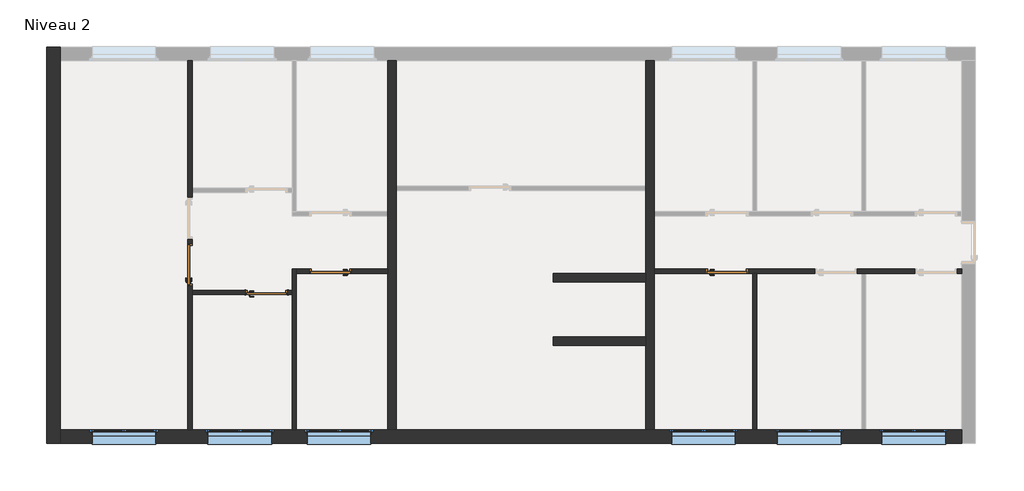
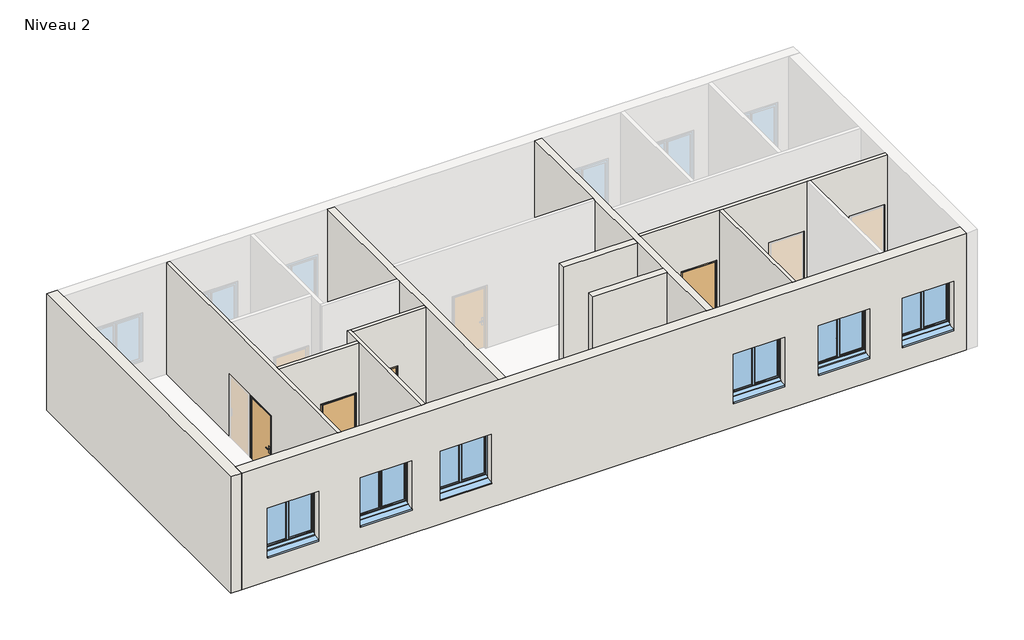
# One storey, part 1 of 2: 12 walls, 6 windows, 4 doors.
"""IFC4 building model written with IfcOpenShell, lengths in millimetres."""

from ifc_helpers import new_model, si_unit, frame, origin, place, context, project, spatial, polyline, outline, extrude, faceted_brep, transform, mapped, element, save
from components import int_simple_pp_0_93m_x_2_04m_4f2bf630, int_simple_pp_0_93m_x_2_04m_68d1b237, window_4dd6e4df

model = new_model("IFC4")

# Units and contexts
model_context = context("Model", 3, world=origin())
ifc_project = project(units=[si_unit("LENGTHUNIT", "METRE", prefix="MILLI")], contexts=[model_context])

# Site, building, storey
site = spatial("IfcSite", under=ifc_project)
building = spatial("IfcBuilding", under=site)
storey = spatial("IfcBuildingStorey", under=building, Name="Niveau 2", Elevation=7200.0)

# Doors
placement = place(None, origin())
int_simple_pp_0_93m_x_2_04m_shape = int_simple_pp_0_93m_x_2_04m_4f2bf630(model_context)
element("IfcDoor", 1, ObjectType="Int. Simple : PP (0.93m x 2.04m)", at=placement, inside=storey, context=model_context, shape_type="MappedRepresentation", body=[
    mapped(int_simple_pp_0_93m_x_2_04m_shape, transform((1686.759299, -1075.3060551, 7200.0), x_axis=(1.0, 0.0, 0.0), y_axis=(0.0, 1.0, 0.0), z_axis=(0.0, 0.0, 1.0))),
])
element("IfcDoor", 2, ObjectType="Int. Simple : PP (0.93m x 2.04m)", at=placement, inside=storey, context=model_context, shape_type="MappedRepresentation", body=[
    mapped(int_simple_pp_0_93m_x_2_04m_shape, transform((-9133.240701, -1575.3060551, 7200.0), x_axis=(1.0, 0.0, 0.0), y_axis=(0.0, 1.0, 0.0), z_axis=(0.0, 0.0, 1.0))),
])
int_simple_pp_0_93m_x_2_04m_2_shape = int_simple_pp_0_93m_x_2_04m_68d1b237(model_context)
element("IfcDoor", 3, ObjectType="Int. Simple : PP (0.93m x 2.04m)", at=placement, inside=storey, context=model_context, shape_type="MappedRepresentation", body=[
    mapped(int_simple_pp_0_93m_x_2_04m_2_shape, transform((-7703.240701, -1075.3060551, 7200.0), x_axis=(-1.0, 0.0, 0.0), y_axis=(0.0, -1.0, 0.0), z_axis=(0.0, 0.0, 1.0))),
])
element("IfcDoor", 4, ObjectType="Int. Simple : PP (0.93m x 2.04m)", at=placement, inside=storey, context=model_context, shape_type="MappedRepresentation", body=[
    mapped(int_simple_pp_0_93m_x_2_04m_2_shape, transform((-10968.240701, -890.3060551, 7200.0), x_axis=(0.0, 1.0, 0.0), y_axis=(-1.0, 0.0, 0.0), z_axis=(0.0, 0.0, 1.0))),
])

# Walls
element("IfcWall", 5, ObjectType="Int. plâtre 100 mm", at=placement, inside=storey, context=model_context, shape_type="Brep", body=[
    faceted_brep([(7161.759299, -1125.3060551, 10800.0), (4911.759299, -1125.3060551, 10800.0), (4811.759299, -1125.3060551, 10800.0), (2351.759299, -1125.3060551, 10800.0), (2251.759299, -1125.3060551, 10800.0), (-58.240701, -1125.3060551, 10800.0), (-58.240701, -1125.3060551, 7200.0), (1151.759299, -1125.3060551, 7200.0), (1151.759299, -1125.3060551, 9275.0), (2151.759299, -1125.3060551, 9275.0), (2151.759299, -1125.3060551, 7200.0), (2251.759299, -1125.3060551, 7200.0), (2351.759299, -1125.3060551, 7200.0), (3711.759299, -1125.3060551, 7200.0), (3711.759299, -1125.3060551, 9275.0), (4711.759299, -1125.3060551, 9275.0), (4711.759299, -1125.3060551, 7200.0), (4811.759299, -1125.3060551, 7200.0), (4911.759299, -1125.3060551, 7200.0), (6061.759299, -1125.3060551, 7200.0), (6061.759299, -1125.3060551, 9275.0), (7061.759299, -1125.3060551, 9275.0), (7061.759299, -1125.3060551, 7200.0), (7161.759299, -1125.3060551, 7200.0), (-58.240701, -1025.3060551, 10800.0), (7161.759299, -1025.3060551, 10800.0), (7161.759299, -1025.3060551, 7200.0), (7061.759299, -1025.3060551, 7200.0), (7061.759299, -1025.3060551, 9275.0), (6061.759299, -1025.3060551, 9275.0), (6061.759299, -1025.3060551, 7200.0), (4711.759299, -1025.3060551, 7200.0), (4711.759299, -1025.3060551, 9275.0), (3711.759299, -1025.3060551, 9275.0), (3711.759299, -1025.3060551, 7200.0), (2151.759299, -1025.3060551, 7200.0), (2151.759299, -1025.3060551, 9275.0), (1151.759299, -1025.3060551, 9275.0), (1151.759299, -1025.3060551, 7200.0), (-58.240701, -1025.3060551, 7200.0)], [[[0, 1, 2, 3, 4, 5, 6, 7, 8, 9, 10, 11, 12, 13, 14, 15, 16, 17, 18, 19, 20, 21, 22, 23]], [[24, 25, 26, 27, 28, 29, 30, 31, 32, 33, 34, 35, 36, 37, 38, 39]], [[6, 39, 38, 7]], [[26, 23, 22, 27]], [[10, 35, 34, 13, 12, 11]], [[16, 31, 30, 19, 18, 17]], [[5, 4, 3, 2, 1, 0, 25, 24]], [[0, 23, 26, 25]], [[6, 5, 24, 39]], [[9, 36, 35, 10]], [[36, 9, 8, 37]], [[37, 8, 7, 38]], [[15, 32, 31, 16]], [[32, 15, 14, 33]], [[33, 14, 13, 34]], [[21, 28, 27, 22]], [[28, 21, 20, 29]], [[29, 20, 19, 30]]]),
])
element("IfcWall", 6, ObjectType="Int. plâtre 100 mm", at=placement, inside=storey, context=model_context, shape_type="SweptSolid", body=[
    extrude(outline(polyline([(2351.759299, -1125.3060551), (2351.759299, -4805.3060551), (2251.759299, -4805.3060551), (2251.759299, -1125.3060551), (2351.759299, -1125.3060551)])), frame((0.0, 0.0, 7200.0), z_axis=(0.0, 0.0, 1.0), x_axis=(1.0, 0.0, 0.0)), (0.0, 0.0, 1.0), 3600.0),
])
element("IfcWall", 7, ObjectType="Int. plâtre 100 mm", at=placement, inside=storey, context=model_context, shape_type="Brep", body=[
    faceted_brep([(-10918.240701, 3874.6939449, 10800.0), (-10918.240701, 874.6939449, 10800.0), (-10918.240701, 774.6939449, 10800.0), (-10918.240701, -1525.3060551, 10800.0), (-10918.240701, -1625.3060551, 10800.0), (-10918.240701, -4805.3060551, 10800.0), (-10918.240701, -4805.3060551, 7200.0), (-10918.240701, -1625.3060551, 7200.0), (-10918.240701, -1525.3060551, 7200.0), (-10918.240701, -1425.3060551, 7200.0), (-10918.240701, -1425.3060551, 9275.0), (-10918.240701, -425.3060551, 9275.0), (-10918.240701, -425.3060551, 7200.0), (-10918.240701, -325.3060551, 7200.0), (-10918.240701, -325.3060551, 9275.0), (-10918.240701, 674.6939449, 9275.0), (-10918.240701, 674.6939449, 7200.0), (-10918.240701, 774.6939449, 7200.0), (-10918.240701, 874.6939449, 7200.0), (-10918.240701, 3874.6939449, 7200.0), (-11018.240701, -4805.3060551, 10800.0), (-11018.240701, 3874.6939449, 10800.0), (-11018.240701, 3874.6939449, 7200.0), (-11018.240701, 674.6939449, 7200.0), (-11018.240701, 674.6939449, 9275.0), (-11018.240701, -325.3060551, 9275.0), (-11018.240701, -325.3060551, 7200.0), (-11018.240701, -425.3060551, 7200.0), (-11018.240701, -425.3060551, 9275.0), (-11018.240701, -1425.3060551, 9275.0), (-11018.240701, -1425.3060551, 7200.0), (-11018.240701, -4805.3060551, 7200.0)], [[[0, 1, 2, 3, 4, 5, 6, 7, 8, 9, 10, 11, 12, 13, 14, 15, 16, 17, 18, 19]], [[20, 21, 22, 23, 24, 25, 26, 27, 28, 29, 30, 31]], [[6, 31, 30, 9, 8, 7]], [[22, 19, 18, 17, 16, 23]], [[12, 27, 26, 13]], [[5, 4, 3, 2, 1, 0, 21, 20]], [[0, 19, 22, 21]], [[6, 5, 20, 31]], [[11, 28, 27, 12]], [[28, 11, 10, 29]], [[29, 10, 9, 30]], [[25, 14, 13, 26]], [[14, 25, 24, 15]], [[15, 24, 23, 16]]]),
])
element("IfcWall", 8, ObjectType="Int. plâtre 100 mm", at=placement, inside=storey, context=model_context, shape_type="Brep", body=[
    faceted_brep([(-8468.240701, -4805.3060551, 7200.0), (-8468.240701, -1125.3060551, 7200.0), (-8468.240701, -1025.3060551, 7200.0), (-8468.240701, -1025.3060551, 10800.0), (-8468.240701, -1125.3060551, 10800.0), (-8468.240701, -4805.3060551, 10800.0), (-8568.240701, -4805.3060551, 7200.0), (-8568.240701, -4805.3060551, 10800.0), (-8568.240701, -1625.3060551, 10800.0), (-8568.240701, -1525.3060551, 10800.0), (-8568.240701, -1025.3060551, 10800.0), (-8568.240701, -1025.3060551, 7200.0), (-8568.240701, -1525.3060551, 7200.0), (-8568.240701, -1625.3060551, 7200.0)], [[[0, 1, 2, 3, 4, 5]], [[6, 7, 8, 9, 10, 11, 12, 13]], [[2, 1, 0, 6, 13, 12, 11]], [[5, 4, 3, 10, 9, 8, 7]], [[0, 5, 7, 6]], [[3, 2, 11, 10]]]),
])
element("IfcWall", 9, ObjectType="Int. plâtre 100 mm", at=placement, inside=storey, context=model_context, shape_type="SweptSolid", body=[
    extrude(outline(polyline([(10800.0, -6318.240701), (10800.0, -8468.240701), (7200.0, -8468.240701), (7200.0, -8168.240701), (9275.0, -8168.240701), (9275.0, -7168.240701), (7200.0, -7168.240701), (7200.0, -6318.240701), (10800.0, -6318.240701)])), frame((0.0, -1125.3060551, 0.0), z_axis=(0.0, 1.0, 0.0), x_axis=(0.0, 0.0, 1.0)), (0.0, 0.0, 1.0), 100.0),
])
element("IfcWall", 10, ObjectType="Int. plâtre 100 mm", at=placement, inside=storey, context=model_context, shape_type="SweptSolid", body=[
    extrude(outline(polyline([(10800.0, -8568.240701), (10800.0, -10918.240701), (7200.0, -10918.240701), (7200.0, -9668.240701), (9275.0, -9668.240701), (9275.0, -8668.240701), (7200.0, -8668.240701), (7200.0, -8568.240701), (10800.0, -8568.240701)])), frame((0.0, -1625.3060551, 0.0), z_axis=(0.0, 1.0, 0.0), x_axis=(0.0, 0.0, 1.0)), (0.0, 0.0, 1.0), 100.0),
])
element("IfcWall", 11, ObjectType="Ext. Voile BA 20", at=placement, inside=storey, context=model_context, shape_type="Brep", body=[
    faceted_brep([(-6318.240701, 3874.6939449, 7200.0), (-6318.240701, 324.6939449, 7200.0), (-6318.240701, 224.6939449, 7200.0), (-6318.240701, -1025.3060551, 7200.0), (-6318.240701, -1125.3060551, 7200.0), (-6318.240701, -4805.3060551, 7200.0), (-6318.240701, -4805.3060551, 10800.0), (-6318.240701, -1125.3060551, 10800.0), (-6318.240701, -1025.3060551, 10800.0), (-6318.240701, 224.6939449, 10800.0), (-6318.240701, 324.6939449, 10800.0), (-6318.240701, 3874.6939449, 10800.0), (-6118.240701, 3874.6939449, 7200.0), (-6118.240701, 3874.6939449, 10800.0), (-6118.240701, 924.6939449, 10800.0), (-6118.240701, 824.6939449, 10800.0), (-6118.240701, -4805.3060551, 10800.0), (-6118.240701, -4805.3060551, 7200.0), (-6118.240701, 824.6939449, 7200.0), (-6118.240701, 924.6939449, 7200.0)], [[[0, 1, 2, 3, 4, 5, 6, 7, 8, 9, 10, 11]], [[12, 13, 14, 15, 16, 17, 18, 19]], [[5, 4, 3, 2, 1, 0, 12, 19, 18, 17]], [[11, 10, 9, 8, 7, 6, 16, 15, 14, 13]], [[0, 11, 13, 12]], [[6, 5, 17, 16]]]),
])
element("IfcWall", 12, ObjectType="Ext. Voile BA 20", at=placement, inside=storey, context=model_context, shape_type="Brep", body=[
    faceted_brep([(-258.240701, 3874.6939449, 7200.0), (-258.240701, 924.6939449, 7200.0), (-258.240701, 824.6939449, 7200.0), (-258.240701, -1129.6604406, 7200.0), (-258.240701, -1329.6604406, 7200.0), (-258.240701, -2625.3060551, 7200.0), (-258.240701, -2825.3060551, 7200.0), (-258.240701, -4805.3060551, 7200.0), (-258.240701, -4805.3060551, 10800.0), (-258.240701, -2825.3060551, 10800.0), (-258.240701, -2625.3060551, 10800.0), (-258.240701, -1329.6604406, 10800.0), (-258.240701, -1129.6604406, 10800.0), (-258.240701, 824.6939449, 10800.0), (-258.240701, 924.6939449, 10800.0), (-258.240701, 3874.6939449, 10800.0), (-58.240701, 3874.6939449, 7200.0), (-58.240701, 3874.6939449, 10800.0), (-58.240701, 324.6939449, 10800.0), (-58.240701, 224.6939449, 10800.0), (-58.240701, -1025.3060551, 10800.0), (-58.240701, -1125.3060551, 10800.0), (-58.240701, -4805.3060551, 10800.0), (-58.240701, -4805.3060551, 7200.0), (-58.240701, -1125.3060551, 7200.0), (-58.240701, -1025.3060551, 7200.0), (-58.240701, 224.6939449, 7200.0), (-58.240701, 324.6939449, 7200.0)], [[[0, 1, 2, 3, 4, 5, 6, 7, 8, 9, 10, 11, 12, 13, 14, 15]], [[16, 17, 18, 19, 20, 21, 22, 23, 24, 25, 26, 27]], [[7, 6, 5, 4, 3, 2, 1, 0, 16, 27, 26, 25, 24, 23]], [[15, 14, 13, 12, 11, 10, 9, 8, 22, 21, 20, 19, 18, 17]], [[0, 15, 17, 16]], [[8, 7, 23, 22]]]),
])
element("IfcWall", 13, ObjectType="Ext. Voile BA 20", at=placement, inside=storey, context=model_context, shape_type="SweptSolid", body=[
    extrude(outline(polyline([(-258.240701, -1329.6604406), (-2430.4682755, -1329.6604406), (-2430.4682755, -1129.6604406), (-258.240701, -1129.6604406), (-258.240701, -1329.6604406)])), frame((0.0, 0.0, 7200.0), z_axis=(0.0, 0.0, 1.0), x_axis=(1.0, 0.0, 0.0)), (0.0, 0.0, 1.0), 3600.0),
])
element("IfcWall", 14, ObjectType="Ext. Voile BA 20", at=placement, inside=storey, context=model_context, shape_type="SweptSolid", body=[
    extrude(outline(polyline([(-258.240701, -2825.3060551), (-2430.4682755, -2825.3060551), (-2430.4682755, -2625.3060551), (-258.240701, -2625.3060551), (-258.240701, -2825.3060551)])), frame((0.0, 0.0, 7200.0), z_axis=(0.0, 0.0, 1.0), x_axis=(1.0, 0.0, 0.0)), (0.0, 0.0, 1.0), 3600.0),
])
element("IfcWall", 15, ObjectType="Ext. Voile BA 20 + Isolant 10", at=placement, inside=storey, context=model_context, shape_type="Brep", body=[
    faceted_brep([(-14018.240701, -5125.3060551, 7200.0), (-14018.240701, -4805.3060551, 7200.0), (-14018.240701, 3874.6939449, 7200.0), (-14018.240701, 4194.6939449, 7200.0), (-14018.240701, 4194.6939449, 10800.0), (-14018.240701, 3874.6939449, 10800.0), (-14018.240701, -4805.3060551, 10800.0), (-14018.240701, -5125.3060551, 10800.0), (-14338.240701, -5125.3060551, 7200.0), (-14338.240701, -5125.3060551, 10800.0), (-14338.240701, 4194.6939449, 10800.0), (-14338.240701, 4194.6939449, 7200.0)], [[[0, 1, 2, 3, 4, 5, 6, 7]], [[8, 9, 10, 11]], [[3, 2, 1, 0, 8, 11]], [[7, 6, 5, 4, 10, 9]], [[4, 3, 11, 10]], [[0, 7, 9, 8]]]),
])
element("IfcWall", 16, ObjectType="Ext. Voile BA 20 + Isolant 10", at=placement, inside=storey, context=model_context, shape_type="Brep", body=[
    faceted_brep([(7161.759299, -4805.3060551, 7200.0), (4911.759299, -4805.3060551, 7200.0), (4811.759299, -4805.3060551, 7200.0), (2351.759299, -4805.3060551, 7200.0), (2251.759299, -4805.3060551, 7200.0), (-58.240701, -4805.3060551, 7200.0), (-258.240701, -4805.3060551, 7200.0), (-6118.240701, -4805.3060551, 7200.0), (-6318.240701, -4805.3060551, 7200.0), (-8468.240701, -4805.3060551, 7200.0), (-8568.240701, -4805.3060551, 7200.0), (-10918.240701, -4805.3060551, 7200.0), (-11018.240701, -4805.3060551, 7200.0), (-14018.240701, -4805.3060551, 7200.0), (-14018.240701, -4805.3060551, 10800.0), (-11018.240701, -4805.3060551, 10800.0), (-10918.240701, -4805.3060551, 10800.0), (-8568.240701, -4805.3060551, 10800.0), (-8468.240701, -4805.3060551, 10800.0), (-6318.240701, -4805.3060551, 10800.0), (-6118.240701, -4805.3060551, 10800.0), (-258.240701, -4805.3060551, 10800.0), (-58.240701, -4805.3060551, 10800.0), (2251.759299, -4805.3060551, 10800.0), (2351.759299, -4805.3060551, 10800.0), (4811.759299, -4805.3060551, 10800.0), (4911.759299, -4805.3060551, 10800.0), (7161.759299, -4805.3060551, 10800.0), (296.759299, -4805.3060551, 8000.0), (1896.759299, -4805.3060551, 8000.0), (1896.759299, -4805.3060551, 9500.0), (296.759299, -4805.3060551, 9500.0), (2781.759299, -4805.3060551, 8000.0), (4381.759299, -4805.3060551, 8000.0), (4381.759299, -4805.3060551, 9500.0), (2781.759299, -4805.3060551, 9500.0), (5236.759299, -4805.3060551, 8000.0), (6836.759299, -4805.3060551, 8000.0), (6836.759299, -4805.3060551, 9500.0), (5236.759299, -4805.3060551, 9500.0), (-13318.240701, -4805.3060551, 8000.0), (-11718.240701, -4805.3060551, 8000.0), (-11718.240701, -4805.3060551, 9500.0), (-13318.240701, -4805.3060551, 9500.0), (-8268.240701, -4805.3060551, 8000.0), (-6668.240701, -4805.3060551, 8000.0), (-6668.240701, -4805.3060551, 9500.0), (-8268.240701, -4805.3060551, 9500.0), (-10598.240701, -4805.3060551, 8000.0), (-8998.240701, -4805.3060551, 8000.0), (-8998.240701, -4805.3060551, 9500.0), (-10598.240701, -4805.3060551, 9500.0), (7161.759299, -5125.3060551, 7200.0), (7161.759299, -5125.3060551, 10800.0), (-14018.240701, -5125.3060551, 10800.0), (-14018.240701, -5125.3060551, 7200.0), (1846.759299, -5125.3060551, 9450.0), (1846.759299, -5125.3060551, 7920.0), (346.759299, -5125.3060551, 7920.0), (346.759299, -5125.3060551, 9450.0), (4331.759299, -5125.3060551, 9450.0), (4331.759299, -5125.3060551, 7920.0), (2831.759299, -5125.3060551, 7920.0), (2831.759299, -5125.3060551, 9450.0), (6786.759299, -5125.3060551, 9450.0), (6786.759299, -5125.3060551, 7920.0), (5286.759299, -5125.3060551, 7920.0), (5286.759299, -5125.3060551, 9450.0), (-11768.240701, -5125.3060551, 9450.0), (-11768.240701, -5125.3060551, 7920.0), (-13268.240701, -5125.3060551, 7920.0), (-13268.240701, -5125.3060551, 9450.0), (-6718.240701, -5125.3060551, 9450.0), (-6718.240701, -5125.3060551, 7920.0), (-8218.240701, -5125.3060551, 7920.0), (-8218.240701, -5125.3060551, 9450.0), (-9048.240701, -5125.3060551, 9450.0), (-9048.240701, -5125.3060551, 7920.0), (-10548.240701, -5125.3060551, 7920.0), (-10548.240701, -5125.3060551, 9450.0), (1846.759299, -4885.3060551, 8000.0), (1846.759299, -4885.3060551, 7920.0), (1846.759299, -4905.3060551, 9450.0), (1846.759299, -4905.3060551, 8000.0), (346.759299, -4885.3060551, 7920.0), (346.759299, -4885.3060551, 8000.0), (346.759299, -4905.3060551, 8000.0), (346.759299, -4905.3060551, 9450.0), (1856.759299, -4905.3060551, 8000.0), (1856.759299, -4855.3060551, 8000.0), (1896.759299, -4855.3060551, 8000.0), (296.759299, -4855.3060551, 8000.0), (336.759299, -4855.3060551, 8000.0), (336.759299, -4905.3060551, 8000.0), (1896.759299, -4855.3060551, 9500.0), (1856.759299, -4855.3060551, 9460.0), (336.759299, -4855.3060551, 9460.0), (296.759299, -4855.3060551, 9500.0), (1856.759299, -4905.3060551, 9460.0), (336.759299, -4905.3060551, 9460.0), (4331.759299, -4885.3060551, 8000.0), (4331.759299, -4885.3060551, 7920.0), (4331.759299, -4905.3060551, 9450.0), (4331.759299, -4905.3060551, 8000.0), (2831.759299, -4885.3060551, 7920.0), (2831.759299, -4885.3060551, 8000.0), (2831.759299, -4905.3060551, 8000.0), (2831.759299, -4905.3060551, 9450.0), (4341.759299, -4905.3060551, 8000.0), (4341.759299, -4855.3060551, 8000.0), (4381.759299, -4855.3060551, 8000.0), (2781.759299, -4855.3060551, 8000.0), (2821.759299, -4855.3060551, 8000.0), (2821.759299, -4905.3060551, 8000.0), (4381.759299, -4855.3060551, 9500.0), (4341.759299, -4855.3060551, 9460.0), (2821.759299, -4855.3060551, 9460.0), (2781.759299, -4855.3060551, 9500.0), (4341.759299, -4905.3060551, 9460.0), (2821.759299, -4905.3060551, 9460.0), (6786.759299, -4885.3060551, 8000.0), (6786.759299, -4885.3060551, 7920.0), (6786.759299, -4905.3060551, 9450.0), (6786.759299, -4905.3060551, 8000.0), (5286.759299, -4885.3060551, 7920.0), (5286.759299, -4885.3060551, 8000.0), (5286.759299, -4905.3060551, 8000.0), (5286.759299, -4905.3060551, 9450.0), (6796.759299, -4905.3060551, 8000.0), (6796.759299, -4855.3060551, 8000.0), (6836.759299, -4855.3060551, 8000.0), (5236.759299, -4855.3060551, 8000.0), (5276.759299, -4855.3060551, 8000.0), (5276.759299, -4905.3060551, 8000.0), (6836.759299, -4855.3060551, 9500.0), (6796.759299, -4855.3060551, 9460.0), (5276.759299, -4855.3060551, 9460.0), (5236.759299, -4855.3060551, 9500.0), (6796.759299, -4905.3060551, 9460.0), (5276.759299, -4905.3060551, 9460.0), (-11768.240701, -4885.3060551, 8000.0), (-11768.240701, -4885.3060551, 7920.0), (-11768.240701, -4905.3060551, 9450.0), (-11768.240701, -4905.3060551, 8000.0), (-13268.240701, -4885.3060551, 7920.0), (-13268.240701, -4885.3060551, 8000.0), (-13268.240701, -4905.3060551, 8000.0), (-13268.240701, -4905.3060551, 9450.0), (-11758.240701, -4905.3060551, 8000.0), (-11758.240701, -4855.3060551, 8000.0), (-11718.240701, -4855.3060551, 8000.0), (-13318.240701, -4855.3060551, 8000.0), (-13278.240701, -4855.3060551, 8000.0), (-13278.240701, -4905.3060551, 8000.0), (-11718.240701, -4855.3060551, 9500.0), (-11758.240701, -4855.3060551, 9460.0), (-13278.240701, -4855.3060551, 9460.0), (-13318.240701, -4855.3060551, 9500.0), (-11758.240701, -4905.3060551, 9460.0), (-13278.240701, -4905.3060551, 9460.0), (-6718.240701, -4885.3060551, 8000.0), (-6718.240701, -4885.3060551, 7920.0), (-6718.240701, -4905.3060551, 9450.0), (-6718.240701, -4905.3060551, 8000.0), (-8218.240701, -4885.3060551, 7920.0), (-8218.240701, -4885.3060551, 8000.0), (-8218.240701, -4905.3060551, 8000.0), (-8218.240701, -4905.3060551, 9450.0), (-6708.240701, -4905.3060551, 8000.0), (-6708.240701, -4855.3060551, 8000.0), (-6668.240701, -4855.3060551, 8000.0), (-8268.240701, -4855.3060551, 8000.0), (-8228.240701, -4855.3060551, 8000.0), (-8228.240701, -4905.3060551, 8000.0), (-6668.240701, -4855.3060551, 9500.0), (-6708.240701, -4855.3060551, 9460.0), (-8228.240701, -4855.3060551, 9460.0), (-8268.240701, -4855.3060551, 9500.0), (-6708.240701, -4905.3060551, 9460.0), (-8228.240701, -4905.3060551, 9460.0), (-9048.240701, -4885.3060551, 8000.0), (-9048.240701, -4885.3060551, 7920.0), (-9048.240701, -4905.3060551, 9450.0), (-9048.240701, -4905.3060551, 8000.0), (-10548.240701, -4885.3060551, 7920.0), (-10548.240701, -4885.3060551, 8000.0), (-10548.240701, -4905.3060551, 8000.0), (-10548.240701, -4905.3060551, 9450.0), (-9038.240701, -4905.3060551, 8000.0), (-9038.240701, -4855.3060551, 8000.0), (-8998.240701, -4855.3060551, 8000.0), (-10598.240701, -4855.3060551, 8000.0), (-10558.240701, -4855.3060551, 8000.0), (-10558.240701, -4905.3060551, 8000.0), (-8998.240701, -4855.3060551, 9500.0), (-9038.240701, -4855.3060551, 9460.0), (-10558.240701, -4855.3060551, 9460.0), (-10598.240701, -4855.3060551, 9500.0), (-9038.240701, -4905.3060551, 9460.0), (-10558.240701, -4905.3060551, 9460.0)], [[[0, 1, 2, 3, 4, 5, 6, 7, 8, 9, 10, 11, 12, 13, 14, 15, 16, 17, 18, 19, 20, 21, 22, 23, 24, 25, 26, 27], [28, 29, 30, 31], [32, 33, 34, 35], [36, 37, 38, 39], [40, 41, 42, 43], [44, 45, 46, 47], [48, 49, 50, 51]], [[52, 53, 54, 55], [56, 57, 58, 59], [60, 61, 62, 63], [64, 65, 66, 67], [68, 69, 70, 71], [72, 73, 74, 75], [76, 77, 78, 79]], [[13, 12, 11, 10, 9, 8, 7, 6, 5, 4, 3, 2, 1, 0, 52, 55]], [[27, 26, 25, 24, 23, 22, 21, 20, 19, 18, 17, 16, 15, 14, 54, 53]], [[14, 13, 55, 54]], [[0, 27, 53, 52]], [[80, 81, 57, 56, 82, 83]], [[84, 85, 86, 87, 59, 58]], [[81, 84, 58, 57]], [[81, 80, 85, 84]], [[56, 59, 87, 82]], [[85, 80, 83, 88, 89, 90, 29, 28, 91, 92, 93, 86]], [[29, 90, 94, 30]], [[90, 89, 95, 96, 92, 91, 97, 94]], [[89, 88, 98, 95]], [[88, 83, 82, 87, 86, 93, 99, 98]], [[30, 94, 97, 31]], [[96, 95, 98, 99]], [[97, 91, 28, 31]], [[92, 96, 99, 93]], [[100, 101, 61, 60, 102, 103]], [[104, 105, 106, 107, 63, 62]], [[101, 104, 62, 61]], [[101, 100, 105, 104]], [[60, 63, 107, 102]], [[105, 100, 103, 108, 109, 110, 33, 32, 111, 112, 113, 106]], [[33, 110, 114, 34]], [[110, 109, 115, 116, 112, 111, 117, 114]], [[109, 108, 118, 115]], [[108, 103, 102, 107, 106, 113, 119, 118]], [[34, 114, 117, 35]], [[116, 115, 118, 119]], [[117, 111, 32, 35]], [[112, 116, 119, 113]], [[120, 121, 65, 64, 122, 123]], [[124, 125, 126, 127, 67, 66]], [[121, 124, 66, 65]], [[121, 120, 125, 124]], [[64, 67, 127, 122]], [[125, 120, 123, 128, 129, 130, 37, 36, 131, 132, 133, 126]], [[37, 130, 134, 38]], [[130, 129, 135, 136, 132, 131, 137, 134]], [[129, 128, 138, 135]], [[128, 123, 122, 127, 126, 133, 139, 138]], [[38, 134, 137, 39]], [[136, 135, 138, 139]], [[137, 131, 36, 39]], [[132, 136, 139, 133]], [[140, 141, 69, 68, 142, 143]], [[144, 145, 146, 147, 71, 70]], [[141, 144, 70, 69]], [[141, 140, 145, 144]], [[68, 71, 147, 142]], [[145, 140, 143, 148, 149, 150, 41, 40, 151, 152, 153, 146]], [[41, 150, 154, 42]], [[150, 149, 155, 156, 152, 151, 157, 154]], [[149, 148, 158, 155]], [[148, 143, 142, 147, 146, 153, 159, 158]], [[42, 154, 157, 43]], [[156, 155, 158, 159]], [[157, 151, 40, 43]], [[152, 156, 159, 153]], [[160, 161, 73, 72, 162, 163]], [[164, 165, 166, 167, 75, 74]], [[161, 164, 74, 73]], [[161, 160, 165, 164]], [[72, 75, 167, 162]], [[165, 160, 163, 168, 169, 170, 45, 44, 171, 172, 173, 166]], [[45, 170, 174, 46]], [[170, 169, 175, 176, 172, 171, 177, 174]], [[169, 168, 178, 175]], [[168, 163, 162, 167, 166, 173, 179, 178]], [[46, 174, 177, 47]], [[176, 175, 178, 179]], [[177, 171, 44, 47]], [[172, 176, 179, 173]], [[180, 181, 77, 76, 182, 183]], [[184, 185, 186, 187, 79, 78]], [[181, 184, 78, 77]], [[181, 180, 185, 184]], [[76, 79, 187, 182]], [[185, 180, 183, 188, 189, 190, 49, 48, 191, 192, 193, 186]], [[49, 190, 194, 50]], [[190, 189, 195, 196, 192, 191, 197, 194]], [[189, 188, 198, 195]], [[188, 183, 182, 187, 186, 193, 199, 198]], [[50, 194, 197, 51]], [[196, 195, 198, 199]], [[197, 191, 48, 51]], [[192, 196, 199, 193]]]),
])

# Windows
window_shape = window_4dd6e4df(model_context)
element("IfcWindow", 17, ObjectType="2 Vantaux - Droits : 1.50m x 1.45m - Appui Béton", at=placement, inside=storey, context=model_context, shape_type="MappedRepresentation", body=[
    mapped(window_shape, transform((-9798.240701, -4965.3060551, 7200.0), x_axis=(-1.0, 0.0, 0.0), y_axis=(0.0, -1.0, 0.0), z_axis=(0.0, 0.0, 1.0))),
])
element("IfcWindow", 18, ObjectType="2 Vantaux - Droits : 1.50m x 1.45m - Appui Béton", at=placement, inside=storey, context=model_context, shape_type="MappedRepresentation", body=[
    mapped(window_shape, transform((-7468.240701, -4965.3060551, 7200.0), x_axis=(-1.0, 0.0, 0.0), y_axis=(0.0, -1.0, 0.0), z_axis=(0.0, 0.0, 1.0))),
])
element("IfcWindow", 19, ObjectType="2 Vantaux - Droits : 1.50m x 1.45m - Appui Béton", at=placement, inside=storey, context=model_context, shape_type="MappedRepresentation", body=[
    mapped(window_shape, transform((-12518.240701, -4965.3060551, 7200.0), x_axis=(-1.0, 0.0, 0.0), y_axis=(0.0, -1.0, 0.0), z_axis=(0.0, 0.0, 1.0))),
])
element("IfcWindow", 20, ObjectType="2 Vantaux - Droits : 1.50m x 1.45m - Appui Béton", at=placement, inside=storey, context=model_context, shape_type="MappedRepresentation", body=[
    mapped(window_shape, transform((6036.759299, -4965.3060551, 7200.0), x_axis=(-1.0, 0.0, 0.0), y_axis=(0.0, -1.0, 0.0), z_axis=(0.0, 0.0, 1.0))),
])
element("IfcWindow", 21, ObjectType="2 Vantaux - Droits : 1.50m x 1.45m - Appui Béton", at=placement, inside=storey, context=model_context, shape_type="MappedRepresentation", body=[
    mapped(window_shape, transform((3581.759299, -4965.3060551, 7200.0), x_axis=(-1.0, 0.0, 0.0), y_axis=(0.0, -1.0, 0.0), z_axis=(0.0, 0.0, 1.0))),
])
element("IfcWindow", 22, ObjectType="2 Vantaux - Droits : 1.50m x 1.45m - Appui Béton", at=placement, inside=storey, context=model_context, shape_type="MappedRepresentation", body=[
    mapped(window_shape, transform((1096.759299, -4965.3060551, 7200.0), x_axis=(-1.0, 0.0, 0.0), y_axis=(0.0, -1.0, 0.0), z_axis=(0.0, 0.0, 1.0))),
])

save(model, "model.ifc")
